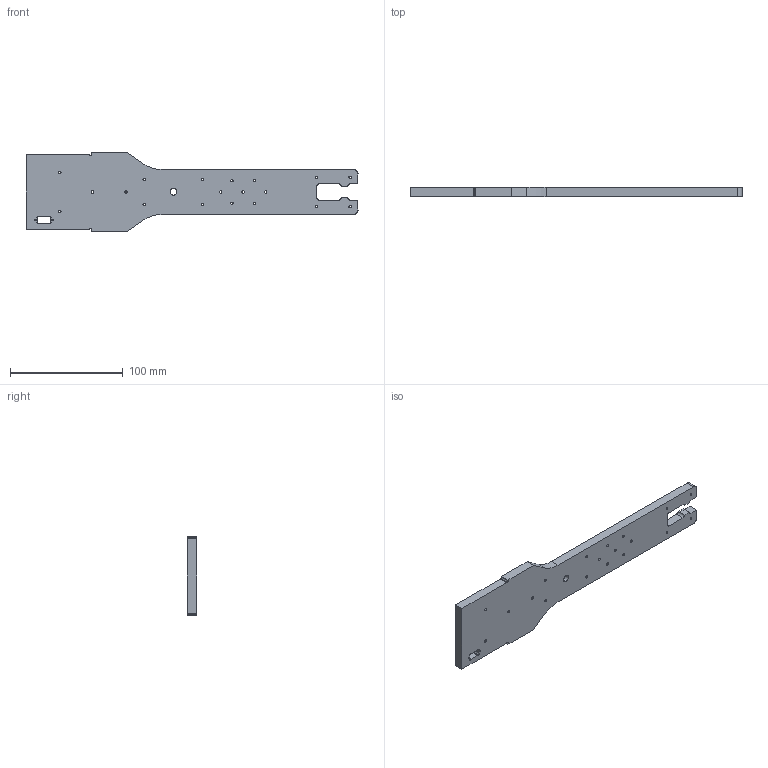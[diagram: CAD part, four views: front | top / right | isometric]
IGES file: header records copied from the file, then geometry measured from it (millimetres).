
Start section: SolidWorks IGES file using analytic representation for surfaces
Global section: file name: C:\Users\AndreBernot\Downloads\K-RACER-L_3D_SW\K-RACER-L_3D_SW\Chassis RACER-L.IGS; native system: SolidWorks 2015; preprocessor: SolidWorks 2015; author: AndreBernot; date: 170922.151045; units: millimetre
Bounding box: 295 x 8 x 70 mm (x, y, z)
Surface area: 35716.4 mm2 (no closed solid volume)
Topology: 0 solids, 0 shells, 101 faces, 2124 edges, 2124 vertices
Faces by surface type: revolution 63, bspline 38
